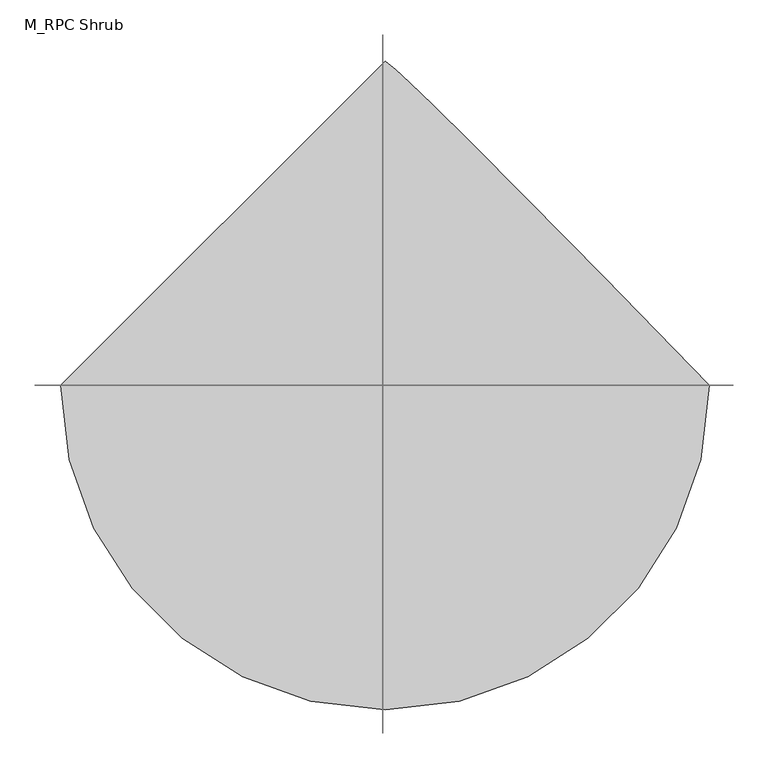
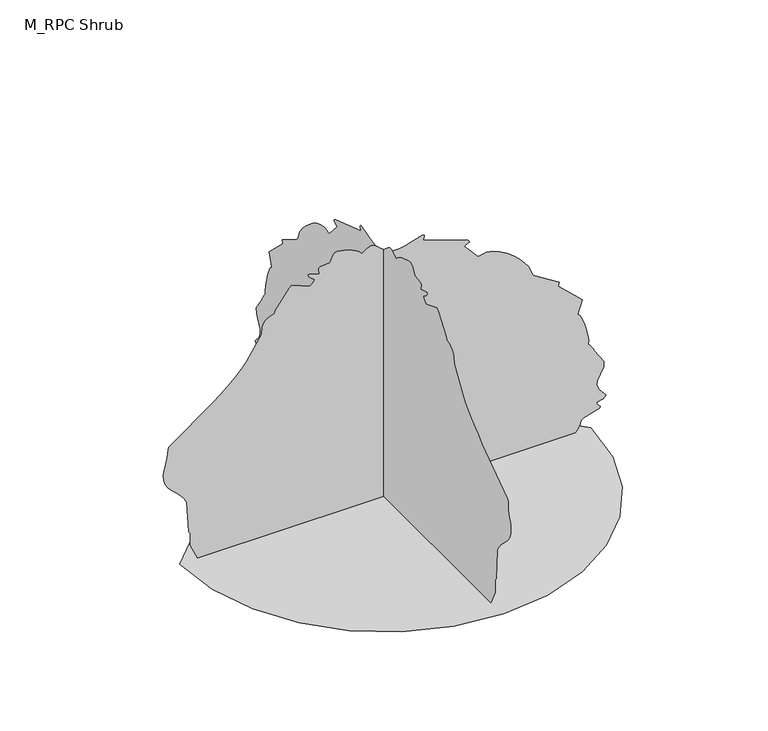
"""IFC4 building model written with IfcOpenShell, lengths in millimetres: geographic element geometry, M_RPC Shrub : Holly - 2.5 Meters."""

from ifc_helpers import new_model, si_unit, origin, place, context, project, spatial, triangles, source, transform, mapped, element, save


def m_rpc_shrub_386fc6e6(model_context):
    return source(origin(), model_context, "Body", "Tessellation", [
        triangles([(-1866.4350574, 0.0, 0.0003117), (-1817.0950459, -427.6635035, 0.0003117), (-1676.5649609, -820.4050106, 0.0003117), (-1456.1050163, -1166.9699759, 0.0003117), (-1166.9699759, -1456.1050163, 0.0003117), (-820.4050106, -1676.5649609, 0.0003117), (-427.6635035, -1817.089959, 0.0003117), (8.16e-05, -1866.4350574, 0.0003117), (427.6635035, -1817.0950459, 0.0003117), (820.4050106, -1676.5649609, 0.0003117), (1166.9699759, -1456.1050163, 0.0003117), (1456.1050163, -1166.9699759, 0.0003117), (1676.5649609, -820.4050106, 0.0003117), (1817.089959, -427.6635035, 0.0003117), (1866.4350574, 0.0001632, 0.0003117), (1259.8850166, 622.1700176, 0.0003117), (810.2200218, 1080.2499784, 0.0003117), (491.2899977, 1401.5800014, 0.0003117), (276.9515, 1613.5150303, 0.0003117), (141.0549984, 1743.4050671, 0.0003117), (57.4535016, 1818.5949543, 0.0003117), (-0.0002448, 1866.4350574, 0.0003117), (-14.7808497, -384.2055093, 2494.5648857), (-14.7808497, -352.8509914, 2486.8101265), (-14.7808497, -318.9574934, 2476.0450859), (-14.7808497, -284.4070042, 2462.1200638), (-14.7808497, -251.0854916, 2444.899894), (-14.7808497, -220.8755078, 2424.2399632), (-14.7808497, -195.6614945, 2399.9949314), (-14.7808497, -189.6144981, 2402.8999866), (-14.7808497, -179.4335062, 2410.299971), (-14.7808497, -166.4045049, 2420.2599735), (-14.7808497, -151.8100015, 2430.8199394), (-14.7808497, -136.937499, 2440.0350746), (-14.7808497, -123.0700043, 2445.9448883), (-14.7808497, -111.4925042, 2446.6149055), (-14.7808497, -94.7830045, 2443.0401237), (-14.7808497, -74.8179986, 2431.7149429), (-14.7808497, -52.4835016, 2414.7549316), (-14.7808497, -28.6624992, 2394.2800186), (-14.7808497, -4.2421, 2372.4050457), (-14.7808497, 19.8943503, 2351.2450001), (-14.7808497, 42.8613509, 2332.9199558), (-14.7808497, 88.4469995, 2325.0800274), (-14.7808497, 140.3424965, 2328.7149799), (-14.7808497, 194.4574983, 2339.9599331), (-14.7808497, 246.7020019, 2354.925008), (-14.7808497, 351.3104968, 2383.420071), (-14.7808497, 362.2135014, 2382.1249466), (-14.7808497, 367.4590024, 2375.8750374), (-14.7808497, 368.4974928, 2366.4899998), (-14.7808497, 359.597491, 2333.6950539), (-14.7808497, 754.2249659, 2199.8350559), (-14.7808497, 773.9699816, 2184.5200024), (-14.7808497, 777.5899641, 2176.4049454), (-14.7808497, 775.3699688, 2169.6249813), (-14.7808497, 768.9099707, 2163.8150162), (-14.7808497, 732.5350107, 2143.0850315), (-14.7808497, 856.8450102, 2002.2000263), (-14.7808497, 861.6700064, 2002.8299297), (-14.7808497, 870.610013, 2004.5350582), (-14.7808497, 882.3699783, 2007.0100525), (-14.7808497, 895.6350117, 2009.9649593), (-14.7808497, 909.1000328, 2013.1099709), (-14.7808497, 921.46999, 2016.14496), (-14.7808497, 931.4299925, 2018.775032), (-14.7808497, 989.1849701, 2008.9750488), (-14.7808497, 1051.64998, 1982.3749283), (-14.7808497, 1115.4399817, 1943.1600254), (-14.7808497, 1177.1750216, 1895.5249969), (-14.7808497, 1233.4850292, 1843.6599941), (-14.7808497, 1280.9750084, 1791.7499359), (-14.7808497, 1316.2799755, 1743.9900604), (-14.7808497, 1351.5050056, 1649.9799557), (-14.7808497, 1594.4300034, 1496.6650406), (-14.7808497, 1586.139957, 1463.5150291), (-14.7808497, 1801.6150314, 1256.3250595), (-14.7808497, 1760.1800606, 1132.0149874), (-14.7808497, 1778.7750011, 1117.2400171), (-14.7808497, 1799.4199619, 1078.3599775), (-14.7808497, 1820.0050426, 1023.5599794), (-14.7808497, 1838.4249939, 961.0249884), (-14.7808497, 1852.5750023, 898.930014), (-14.7808497, 1860.3450222, 845.4650362), (-14.7808497, 1859.625008, 808.8049919), (-14.7808497, 1865.519997, 803.9549973), (-14.7808497, 1873.2900169, 795.139983), (-14.7808497, 1882.0499474, 783.6199739), (-14.7808497, 1890.9200455, 770.6600092), (-14.7808497, 1899.0199871, 757.5199682), (-14.7808497, 1905.4550594, 745.469977), (-14.7808497, 1909.3500252, 735.7699877), (-14.7808497, 1999.9949284, 599.5450178), (-14.7808497, 1996.0899342, 544.7400055), (-14.7808497, 1937.8649998, 430.95549), (-14.7808497, 1935.8450649, 390.3824942), (-14.7808497, 1958.96502, 338.7230021), (-14.7808497, 2017.0899605, 270.1205034), (-14.7808497, 2013.6650242, 257.5775009), (-14.7808497, 2004.5549698, 248.0425087), (-14.7808497, 1991.4849827, 241.035996), (-14.7808497, 1934.2149319, 228.6830073), (-14.7808497, 1934.0599995, 217.1859983), (-14.7808497, 1938.5100185, 207.4979995), (-14.7808497, 1966.664986, 177.966499), (-14.7808497, 1967.3649433, 170.670996), (-14.7808497, 1958.4849621, 160.6645028), (-14.7808497, 1815.7250713, 118.8584972), (-14.7808497, 1793.3249851, 104.3714999), (-14.7808497, 1791.2450249, 89.0085023), (-14.7808497, 1786.5349926, 73.8999996), (-14.7808497, 1779.6450062, 59.004002), (-14.7808497, 1771.0000397, 44.2773482), (-14.7808497, 1761.0400372, 29.6784505), (-14.7808497, 1750.2100296, 15.1642497), (-14.7808497, 1738.9399326, 0.69247), (-14.7808497, -1687.1449837, 0.0), (-14.7808497, -1753.7050198, 145.8084965), (-14.7808497, -1753.7050198, 261.8330006), (-14.7808497, -1767.4300541, 279.7024949), (-14.7808497, -1785.3000389, 567.4349865), (-14.7808497, -1807.6350128, 610.8850233), (-14.7808497, -1840.1350639, 650.6849922), (-14.7808497, -1878.3100594, 688.4999805), (-14.7808497, -1917.6599831, 726.0050314), (-14.7808497, -1953.7099628, 764.8650141), (-14.7808497, -1981.9599827, 806.7549717), (-14.7808497, -1997.9249966, 853.35002), (-14.7808497, -2000.7550564, 893.7700092), (-14.7808497, -1996.9000591, 931.2650316), (-14.7808497, -1988.7249767, 966.4899891), (-14.7808497, -1978.6100418, 1000.11003), (-14.7808497, -1962.0649761, 1065.1549696), (-14.7808497, -1956.1099617, 1135.2049816), (-14.7808497, -1948.2300648, 1153.6600325), (-14.7808497, -1942.3699574, 1159.7900362), (-14.7808497, -1544.7250431, 1443.5349987), (-14.7808497, -1483.8999767, 1494.8049797), (-14.7808497, -1415.4849667, 1553.6550213), (-14.7808497, -1347.1900074, 1615.8599453), (-14.7808497, -1286.7099781, 1677.1849812), (-14.7808497, -1241.7499317, 1733.4049507), (-14.7808497, -1107.2800146, 1944.1849628), (-14.7808497, -1101.7650169, 2009.3100574), (-14.7808497, -1093.0949793, 2036.2800682), (-14.7808497, -1078.8900324, 2059.2150055), (-14.7808497, -1057.9750299, 2077.9049984), (-14.7808497, -1029.160001, 2092.1250607), (-14.7808497, -991.2549746, 2101.6500607), (-14.7808497, -984.9400257, 2129.3100002), (-14.7808497, -856.9500183, 2298.2149521), (-14.7808497, -833.7950363, 2317.1200481), (-14.7808497, -668.0449791, 2250.8200253), (-14.7808497, -662.4749702, 2253.6699966), (-14.7808497, -655.575028, 2259.4100533), (-14.7808497, -648.0700356, 2267.1600163), (-14.7808497, -626.6100082, 2300.5450424), (-14.7808497, -667.224971, 2332.1450031), (-14.7808497, -678.3500187, 2344.7400192), (-14.7808497, -684.9650219, 2356.7199566), (-14.7808497, -684.6199848, 2366.8450653), (-14.7808497, -675.4999746, 2370.1849777), (-14.7808497, -585.1699868, 2341.9849548), (-14.7808497, -589.2750051, 2387.654987), (-14.7808497, -588.1250027, 2394.7699596), (-14.7808497, -585.1699868, 2399.9949314), (-14.7808497, -576.1049878, 2404.2400211), (-14.7808497, -490.6385113, 2415.3349834), (-14.7808497, -485.7224959, 2416.5699371), (-14.7808497, -455.1710177, 2477.0499664), (-14.7808497, -441.6105083, 2491.5601273), (-14.7808497, -426.7525126, 2500.0000191), (-14.7808497, -411.1355152, 2499.4451111), (-398.9860024, -0.0001562, 2494.5648857), (-367.6314846, -0.0001555, 2486.8101265), (-333.7379866, -0.0001549, 2476.0450859), (-299.1874974, -0.0001543, 2462.1200638), (-265.8660029, -0.0001536, 2444.899894), (-235.6564915, -0.0001526, 2424.2399632), (-210.4424964, -0.0001513, 2399.9949314), (-204.3954999, -0.0001514, 2402.8999866), (-194.214508, -0.0001517, 2410.299971), (-181.1849981, -0.0001521, 2420.2599735), (-166.5905037, -0.0001526, 2430.8199394), (-151.7185009, -0.0001531, 2440.0350746), (-137.8504975, -0.0001536, 2445.9448883), (-126.273497, -0.0001541, 2446.6149055), (-109.5634977, -0.0001525, 2443.0401237), (-89.5985008, -0.0001513, 2431.7149429), (-67.2639993, -0.0001504, 2414.7549316), (-43.4432013, -0.0001496, 2394.2800186), (-19.0227999, -0.0001489, 2372.4050457), (5.1136499, -0.0001482, 2351.2450001), (28.0806511, -0.0001473, 2332.9199558), (73.6660022, -0.0001468, 2325.0800274), (125.5615037, -0.0001469, 2328.7149799), (179.6770051, -0.0001475, 2339.9599331), (231.9215087, -0.0001484, 2354.925008), (336.529495, -0.0001503, 2383.420071), (347.4324995, -0.00015, 2382.1249466), (352.6780005, -0.0001495, 2375.8750374), (353.7164909, -0.000149, 2366.4899998), (344.8169978, -0.0001473, 2333.6950539), (739.4449814, -0.0001389, 2199.8350559), (759.1899971, -0.0001384, 2184.5200024), (762.8099796, -0.0001382, 2176.4049454), (760.5899843, -0.0001379, 2169.6249813), (754.1299862, -0.0001375, 2163.8150162), (717.7550262, -0.000136, 2143.0850315), (842.0650257, -0.0001276, 2002.2000263), (846.8900219, -0.0001276, 2002.8299297), (855.8300285, -0.0001277, 2004.5350582), (867.5899939, -0.0001279, 2007.0100525), (880.8550272, -0.000128, 2009.9649593), (894.3199757, -0.0001282, 2013.1099709), (906.6900055, -0.0001284, 2016.14496), (916.650008, -0.0001286, 2018.775032), (974.4049856, -0.000128, 2008.9750488), (1036.8699955, -0.0001264, 1982.3749283), (1100.6599972, -0.0001241, 1943.1600254), (1162.3949644, -0.0001212, 1895.5249969), (1218.7000305, -0.0001181, 1843.6599941), (1266.1949512, -0.000115, 1791.7499359), (1301.5000637, -0.0001122, 1743.9900604), (1336.7200069, -0.0001066, 1649.9799557), (1579.6499462, -9.74e-05, 1496.6650406), (1571.3600452, -9.55e-05, 1463.5150291), (1786.8349743, -8.31e-05, 1256.3300011), (1745.3950619, -7.57e-05, 1132.0149874), (1763.994944, -7.48e-05, 1117.2400171), (1784.6400501, -7.25e-05, 1078.3599775), (1805.2249855, -6.92e-05, 1023.5599794), (1823.6449368, -6.55e-05, 961.0249884), (1837.7900036, -6.18e-05, 898.930014), (1845.5600235, -5.86e-05, 845.4650362), (1844.8449509, -5.64e-05, 808.8049919), (1850.7399399, -5.61e-05, 803.9549973), (1858.5099598, -5.56e-05, 795.139983), (1867.2700356, -5.49e-05, 783.6199739), (1876.1399883, -5.42e-05, 770.6600092), (1884.2349884, -5.34e-05, 757.5199682), (1890.6750023, -5.27e-05, 745.469977), (1894.569968, -5.21e-05, 735.7699877), (1985.2150166, -4.4e-05, 599.5450178), (1981.3100224, -4.07e-05, 544.7400055), (1923.0849426, -3.39e-05, 430.95549), (1921.0650078, -3.15e-05, 390.3824942), (1944.1849628, -2.84e-05, 338.7230021), (2002.3100487, -2.43e-05, 270.1205034), (1998.884967, -2.36e-05, 257.5775009), (1989.775058, -2.3e-05, 248.0429993), (1976.7050709, -2.26e-05, 241.035996), (1919.4350201, -2.19e-05, 228.6834978), (1919.2799423, -2.18e-05, 217.1859983), (1923.7299614, -2.13e-05, 207.4979995), (1951.8849289, -1.85e-05, 177.9670077), (1952.5850315, -1.84e-05, 170.670996), (1943.7050503, -1.79e-05, 160.6645028), (1800.9450142, -1.48e-05, 118.8584972), (1778.544928, -1.44e-05, 104.3714999), (1776.4649677, -1.48e-05, 89.0085023), (1771.7549355, -1.47e-05, 73.8999996), (1764.8600075, -1.43e-05, 59.004002), (1756.2199825, -1.37e-05, 44.2774482), (1746.25998, -1.28e-05, 29.6786004), (1735.4299725, -1.18e-05, 15.1643496), (1724.1600208, -1.08e-05, 0.6926), (-1701.9250408, -8e-06, 0.0001322), (-1768.4849316, -1.69e-05, 145.8089961), (-1768.4849316, -2.38e-05, 261.8330006), (-1782.2099659, -2.49e-05, 279.7024949), (-1800.0799507, -4.21e-05, 567.4349865), (-1822.4200115, -4.46e-05, 610.8899649), (-1854.9149757, -4.7e-05, 650.6849922), (-1893.0899712, -4.93e-05, 688.4999805), (-1932.4449818, -5.15e-05, 726.0050314), (-1968.49002, -5.38e-05, 764.8650141), (-1996.7400398, -5.63e-05, 806.7549717), (-2012.7050537, -5.91e-05, 853.35002), (-2015.5349682, -6.15e-05, 893.7700092), (-2011.6799709, -6.37e-05, 931.2650316), (-2003.5050339, -6.58e-05, 966.4899891), (-1993.3899536, -6.78e-05, 1000.11003), (-1976.8450333, -7.17e-05, 1065.1549696), (-1970.8949604, -7.59e-05, 1135.2049816), (-1963.0099766, -7.71e-05, 1153.6600325), (-1957.1549561, -7.75e-05, 1159.7900362), (-1559.5049549, -9.5e-05, 1443.5349987), (-1498.6800339, -9.86e-05, 1494.8049797), (-1430.2650238, -0.0001025, 1553.6550213), (-1361.9700645, -0.0001065, 1615.8599453), (-1301.4900352, -0.0001101, 1677.1849812), (-1256.5299889, -0.0001131, 1733.4049507), (-1122.0599991, -0.0001241, 1944.1849628), (-1116.5450014, -0.000128, 2009.3100574), (-1107.8749638, -0.0001296, 2036.2800682), (-1093.6700169, -0.000131, 2059.2150055), (-1072.7550144, -0.0001321, 2077.9049984), (-1043.9399855, -0.0001329, 2092.1250607), (-1006.0399733, -0.0001335, 2101.6500607), (-999.7200102, -0.0001351, 2129.3100002), (-871.735017, -0.0001452, 2298.2149521), (-848.5750208, -0.0001463, 2317.1200481), (-682.8250362, -0.0001424, 2250.8200253), (-677.2550274, -0.0001426, 2253.6699966), (-670.3550125, -0.0001429, 2259.4100533), (-662.85002, -0.0001434, 2267.1600163), (-641.3899927, -0.0001454, 2300.5450424), (-682.0050282, -0.0001472, 2332.1450031), (-693.1300032, -0.0001479, 2344.7400192), (-699.7450064, -0.0001487, 2356.7199566), (-699.3999693, -0.0001493, 2366.8450653), (-690.2800318, -0.000149, 2370.1849777), (-599.9549855, -0.0001478, 2341.9849548), (-604.0549896, -0.0001501, 2387.654987), (-602.9049871, -0.0001506, 2394.7699596), (-599.9549855, -0.0001513, 2399.9949314), (-590.8850086, -0.0001513, 2404.2400211), (-505.4199855, -0.0001521, 2415.3349834), (-500.5049875, -0.0001523, 2416.5699371), (-469.9515109, -0.0001547, 2477.0499664), (-456.3915101, -0.0001555, 2491.5601273), (-441.5335144, -0.0001563, 2500.0000191), (-425.9165171, -0.0001572, 2499.4451111)], [[21, 22, 1], [20, 21, 1], [19, 20, 1], [18, 19, 1], [17, 18, 1], [17, 1, 2], [17, 2, 3], [17, 3, 4], [16, 17, 4], [16, 4, 5], [16, 5, 6], [16, 6, 7], [16, 7, 8], [16, 8, 9], [16, 9, 10], [16, 10, 11], [16, 11, 12], [15, 16, 12], [14, 15, 12], [13, 14, 12], [74, 75, 76], [160, 161, 162], [116, 117, 118], [116, 118, 119], [76, 77, 78], [159, 160, 162], [158, 159, 162], [157, 158, 162], [157, 162, 163], [151, 152, 153], [115, 116, 119], [114, 115, 119], [113, 114, 119], [112, 113, 119], [111, 112, 119], [110, 111, 119], [109, 110, 119], [97, 98, 99], [97, 99, 100], [97, 100, 101], [97, 101, 102], [109, 119, 120], [109, 120, 121], [109, 121, 122], [105, 106, 107], [104, 105, 107], [104, 107, 108], [103, 104, 108], [150, 151, 153], [149, 150, 153], [48, 49, 50], [48, 50, 51], [48, 51, 52], [47, 48, 52], [109, 122, 123], [54, 55, 56], [54, 56, 57], [53, 54, 57], [53, 57, 58], [52, 53, 58], [108, 109, 123], [102, 103, 108], [92, 93, 94], [92, 94, 95], [96, 97, 102], [96, 102, 108], [96, 108, 123], [95, 96, 123], [92, 95, 123], [91, 92, 123], [90, 91, 123], [89, 90, 123], [88, 89, 123], [87, 88, 123], [86, 87, 123], [85, 86, 123], [84, 85, 123], [83, 84, 123], [82, 83, 123], [81, 82, 123], [80, 81, 123], [79, 80, 123], [78, 79, 123], [76, 78, 123], [74, 76, 123], [73, 74, 123], [72, 73, 123], [71, 72, 123], [70, 71, 123], [69, 70, 123], [68, 69, 123], [67, 68, 123], [66, 67, 123], [65, 66, 123], [64, 65, 123], [63, 64, 123], [62, 63, 123], [61, 62, 123], [60, 61, 123], [59, 60, 123], [58, 59, 123], [52, 58, 123], [47, 52, 123], [46, 47, 123], [45, 46, 123], [44, 45, 123], [43, 44, 123], [42, 43, 123], [41, 42, 123], [40, 41, 123], [39, 40, 123], [38, 39, 123], [37, 38, 123], [36, 37, 123], [35, 36, 123], [34, 35, 123], [33, 34, 123], [32, 33, 123], [31, 32, 123], [30, 31, 123], [29, 30, 123], [29, 123, 124], [28, 29, 124], [27, 28, 124], [26, 27, 124], [25, 26, 124], [24, 25, 124], [23, 24, 124], [173, 23, 124], [173, 124, 125], [173, 125, 126], [165, 166, 167], [164, 165, 167], [163, 164, 167], [163, 167, 168], [171, 172, 173], [170, 171, 173], [169, 170, 173], [169, 173, 126], [168, 169, 126], [168, 126, 127], [168, 127, 128], [168, 128, 129], [168, 129, 130], [168, 130, 131], [168, 131, 132], [145, 146, 147], [145, 147, 148], [144, 145, 148], [144, 148, 149], [143, 144, 149], [143, 149, 153], [142, 143, 153], [134, 135, 136], [133, 134, 136], [133, 136, 137], [132, 133, 137], [142, 153, 154], [156, 157, 163], [156, 163, 168], [141, 142, 154], [132, 137, 138], [132, 138, 139], [141, 154, 155], [140, 141, 155], [155, 156, 168], [155, 168, 132], [140, 155, 132], [140, 132, 139], [225, 226, 227], [311, 312, 313], [267, 268, 269], [267, 269, 270], [227, 228, 229], [310, 311, 313], [309, 310, 313], [308, 309, 313], [308, 313, 314], [302, 303, 304], [266, 267, 270], [265, 266, 270], [264, 265, 270], [263, 264, 270], [262, 263, 270], [261, 262, 270], [260, 261, 270], [248, 249, 250], [248, 250, 251], [248, 251, 252], [248, 252, 253], [260, 270, 271], [260, 271, 272], [260, 272, 273], [256, 257, 258], [255, 256, 258], [255, 258, 259], [254, 255, 259], [301, 302, 304], [300, 301, 304], [199, 200, 201], [199, 201, 202], [199, 202, 203], [198, 199, 203], [260, 273, 274], [205, 206, 207], [205, 207, 208], [204, 205, 208], [204, 208, 209], [203, 204, 209], [259, 260, 274], [253, 254, 259], [243, 244, 245], [243, 245, 246], [247, 248, 253], [247, 253, 259], [247, 259, 274], [246, 247, 274], [243, 246, 274], [242, 243, 274], [241, 242, 274], [240, 241, 274], [239, 240, 274], [238, 239, 274], [237, 238, 274], [236, 237, 274], [235, 236, 274], [234, 235, 274], [233, 234, 274], [232, 233, 274], [231, 232, 274], [230, 231, 274], [229, 230, 274], [227, 229, 274], [225, 227, 274], [224, 225, 274], [223, 224, 274], [222, 223, 274], [221, 222, 274], [220, 221, 274], [219, 220, 274], [218, 219, 274], [217, 218, 274], [216, 217, 274], [215, 216, 274], [214, 215, 274], [213, 214, 274], [212, 213, 274], [211, 212, 274], [210, 211, 274], [209, 210, 274], [203, 209, 274], [198, 203, 274], [197, 198, 274], [196, 197, 274], [195, 196, 274], [194, 195, 274], [193, 194, 274], [192, 193, 274], [191, 192, 274], [190, 191, 274], [189, 190, 274], [188, 189, 274], [187, 188, 274], [186, 187, 274], [185, 186, 274], [184, 185, 274], [183, 184, 274], [182, 183, 274], [181, 182, 274], [180, 181, 274], [180, 274, 275], [179, 180, 275], [178, 179, 275], [177, 178, 275], [176, 177, 275], [175, 176, 275], [174, 175, 275], [324, 174, 275], [324, 275, 276], [324, 276, 277], [316, 317, 318], [315, 316, 318], [314, 315, 318], [314, 318, 319], [322, 323, 324], [321, 322, 324], [320, 321, 324], [320, 324, 277], [319, 320, 277], [319, 277, 278], [319, 278, 279], [319, 279, 280], [319, 280, 281], [319, 281, 282], [319, 282, 283], [296, 297, 298], [296, 298, 299], [295, 296, 299], [295, 299, 300], [294, 295, 300], [294, 300, 304], [293, 294, 304], [285, 286, 287], [284, 285, 287], [284, 287, 288], [283, 284, 288], [293, 304, 305], [307, 308, 314], [307, 314, 319], [292, 293, 305], [283, 288, 289], [283, 289, 290], [292, 305, 306], [291, 292, 306], [306, 307, 319], [306, 319, 283], [291, 306, 283], [291, 283, 290]], closed=False),
    ])


if __name__ == "__main__":
    model = new_model("IFC4")
    model_context = context("Model", 3, world=origin())
    ifc_project = project(units=[si_unit("LENGTHUNIT", "METRE", prefix="MILLI")], contexts=[model_context])
    site = spatial("IfcSite", under=ifc_project)
    building = spatial("IfcBuilding", under=site)
    placement = place(None, origin())
    m_rpc_shrub_shape = m_rpc_shrub_386fc6e6(model_context)
    element("IfcGeographicElement", 1, ObjectType="M_RPC Shrub : Holly - 2.5 Meters", at=placement, inside=building, context=model_context, shape_type="MappedRepresentation", body=[
        mapped(m_rpc_shrub_shape, transform((0.0, 0.0, 0.0), x_axis=(1.0, 0.0, 0.0), y_axis=(0.0, 1.0, 0.0), z_axis=(0.0, 0.0, 1.0))),
    ])
    save(model, "model.ifc")
